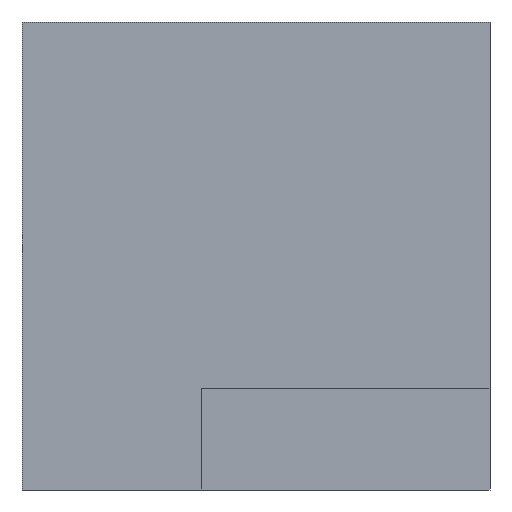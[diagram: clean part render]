
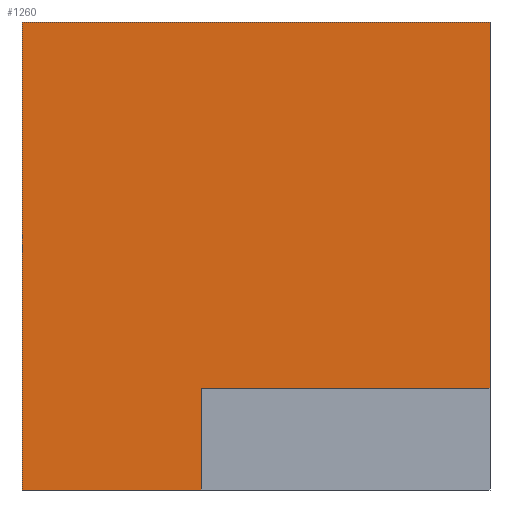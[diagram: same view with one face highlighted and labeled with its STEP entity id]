
A CAD part, left-side view. The second image highlights one B-rep face of the part: STEP entity #1260.
In plain terms, the highlighted planar face has unit normal (-1, 0, 0).
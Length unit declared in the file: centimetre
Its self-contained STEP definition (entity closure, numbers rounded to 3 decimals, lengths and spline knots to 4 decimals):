
#23 = EDGE_CURVE ( 'NONE', #511, #445, #985, .T. ) ;
#58 = CARTESIAN_POINT ( 'NONE',  ( 0., 1000., 1000. ) ) ;
#70 = VECTOR ( 'NONE', #385, 100. ) ;
#81 = LINE ( 'NONE', #535, #395 ) ;
#163 = LINE ( 'NONE', #1186, #475 ) ;
#212 = DIRECTION ( 'NONE',  ( 0., 0., -1. ) ) ;
#243 = ORIENTED_EDGE ( 'NONE', *, *, #691, .F. ) ;
#307 = DIRECTION ( 'NONE',  ( 1., 0., 0. ) ) ;
#385 = DIRECTION ( 'NONE',  ( 0., -1., 0. ) ) ;
#395 = VECTOR ( 'NONE', #781, 100. ) ;
#396 = AXIS2_PLACEMENT_3D ( 'NONE', #1322, #307, #212 ) ;
#408 = ORIENTED_EDGE ( 'NONE', *, *, #753, .T. ) ;
#418 = DIRECTION ( 'NONE',  ( 0., 0., -1. ) ) ;
#443 = CARTESIAN_POINT ( 'NONE',  ( 0., 0., 217.8087 ) ) ;
#445 = VERTEX_POINT ( 'NONE', #443 ) ;
#475 = VECTOR ( 'NONE', #1417, 100. ) ;
#495 = VERTEX_POINT ( 'NONE', #1118 ) ;
#511 = VERTEX_POINT ( 'NONE', #1304 ) ;
#520 = CARTESIAN_POINT ( 'NONE',  ( 0., 1000., 1000. ) ) ;
#535 = CARTESIAN_POINT ( 'NONE',  ( 0., 616.6336, 217.8087 ) ) ;
#586 = VERTEX_POINT ( 'NONE', #520 ) ;
#637 = FACE_OUTER_BOUND ( 'NONE', #1086, .T. ) ;
#640 = ORIENTED_EDGE ( 'NONE', *, *, #672, .T. ) ;
#672 = EDGE_CURVE ( 'NONE', #586, #495, #835, .T. ) ;
#685 = EDGE_CURVE ( 'NONE', #495, #1296, #163, .T. ) ;
#691 = EDGE_CURVE ( 'NONE', #1095, #1296, #1167, .T. ) ;
#727 = DIRECTION ( 'NONE',  ( 0., 0., -1. ) ) ;
#730 = LINE ( 'NONE', #58, #70 ) ;
#753 = EDGE_CURVE ( 'NONE', #1095, #445, #81, .T. ) ;
#781 = DIRECTION ( 'NONE',  ( 0., -1., 0. ) ) ;
#817 = CARTESIAN_POINT ( 'NONE',  ( 0., 616.6336, 0. ) ) ;
#835 = LINE ( 'NONE', #1289, #1099 ) ;
#848 = DIRECTION ( 'NONE',  ( 0., 0., -1. ) ) ;
#852 = ORIENTED_EDGE ( 'NONE', *, *, #1001, .F. ) ;
#890 = VECTOR ( 'NONE', #418, 100. ) ;
#985 = LINE ( 'NONE', #1004, #890 ) ;
#1001 = EDGE_CURVE ( 'NONE', #586, #511, #730, .T. ) ;
#1004 = CARTESIAN_POINT ( 'NONE',  ( 0., 0., 1000. ) ) ;
#1039 = VECTOR ( 'NONE', #848, 100. ) ;
#1063 = CARTESIAN_POINT ( 'NONE',  ( 0., 616.6336, 217.8087 ) ) ;
#1086 = EDGE_LOOP ( 'NONE', ( #243, #408, #1210, #852, #640, #1141 ) ) ;
#1095 = VERTEX_POINT ( 'NONE', #1063 ) ;
#1099 = VECTOR ( 'NONE', #727, 100. ) ;
#1118 = CARTESIAN_POINT ( 'NONE',  ( 0., 1000., 0. ) ) ;
#1141 = ORIENTED_EDGE ( 'NONE', *, *, #685, .T. ) ;
#1167 = LINE ( 'NONE', #1182, #1039 ) ;
#1182 = CARTESIAN_POINT ( 'NONE',  ( 0., 616.6336, 0. ) ) ;
#1186 = CARTESIAN_POINT ( 'NONE',  ( 0., 1000., 0. ) ) ;
#1210 = ORIENTED_EDGE ( 'NONE', *, *, #23, .F. ) ;
#1260 = ADVANCED_FACE ( 'NONE', ( #637 ), #1432, .F. ) ;
#1289 = CARTESIAN_POINT ( 'NONE',  ( 0., 1000., 1000. ) ) ;
#1296 = VERTEX_POINT ( 'NONE', #817 ) ;
#1304 = CARTESIAN_POINT ( 'NONE',  ( 0., 0., 1000. ) ) ;
#1322 = CARTESIAN_POINT ( 'NONE',  ( 0., 1000., 1000. ) ) ;
#1417 = DIRECTION ( 'NONE',  ( 0., -1., 0. ) ) ;
#1432 = PLANE ( 'NONE',  #396 ) ;
